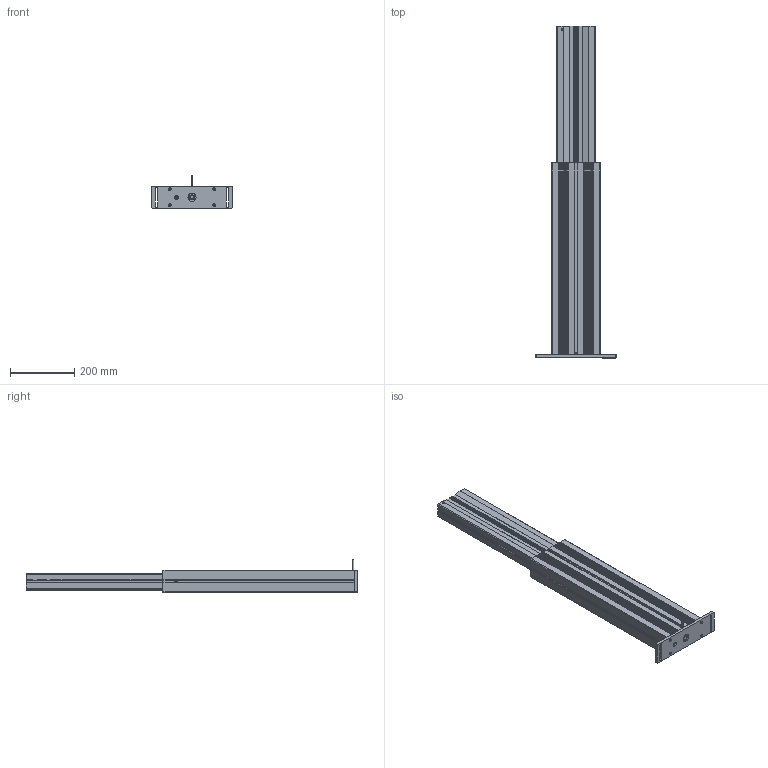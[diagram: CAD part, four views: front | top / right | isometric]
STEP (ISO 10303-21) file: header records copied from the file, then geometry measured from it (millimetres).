
FILE_DESCRIPTION(/* description */ ('Unknown'),/* implementation_level */ '2;1');
FILE_NAME(/* name */ '306.00804_03_ausgefahren',/* time_stamp */ '2019-03-11T17:31:37+01:00',/* author */ ('Unknown'),/* organization */ ('Unknown'),/* preprocessor_version */ 'ST-DEVELOPER v16.7',/* originating_system */ 'DEX',/* authorisation */ $);
FILE_SCHEMA (('AUTOMOTIVE_DESIGN {1 0 10303 214 3 1 1}'));
Products named in the file (16): 306.00804; 115.00074_oa_0; 119.00311; 119.00312; 142.00188; 113.00002_70mm; 124.00123; 142.00166; 107.00027_oa_1; 142.00021; 125.00021; 115.00007_oa_2; 125.00033; 126.00147; 143.00047; 142.00031
Assembly tree (20 placements, depth 3):
  306.00804
    115.00074_oa_0
      119.00311
      119.00312
      142.00188  x2
    113.00002_70mm
    124.00123
    142.00166  x4
    107.00027_oa_1
      142.00021
      125.00021
      115.00007_oa_2
      125.00033
      113.00002_70mm
    126.00147
    143.00047
    142.00031
Bounding box: 250 x 1030 x 103 mm (x, y, z)
Volume: 2670556.3 mm3; surface area: 1274292.9 mm2
Topology: 17 solids, 17 shells, 2360 faces, 6899 edges, 4593 vertices
Faces by surface type: plane 1323, cylinder 1002, cone 21, torus 12, bspline 1, sphere 1
Full cylindrical faces by diameter (mm): 1.8 x2, 2.2 x2, 2.78 x1, 3.242 x2, 3.4 x1, 3.5 x1, 4 x4, 4.1 x1, 4.2 x1, 5 x5, 5.5 x4, 6.6 x1, 6.917 x2, 8 x5, 8.5 x4, 8.7 x4, 9 x1, 10 x1, 12.5 x2, 13 x2, 13.5 x1, 13.9 x2, 25 x1, 30 x2
Entity records: 87261 total; most frequent: CARTESIAN_POINT 14212, ORIENTED_EDGE 13394, DIRECTION 13120, EDGE_CURVE 6697, VERTEX_POINT 4498, LINE 4480, VECTOR 4480, AXIS2_PLACEMENT_3D 4320
